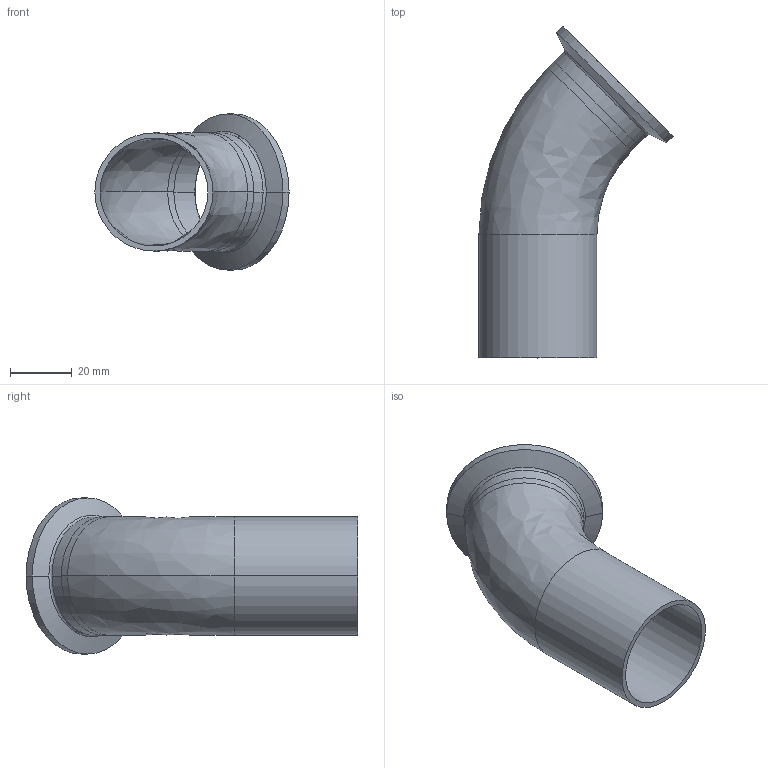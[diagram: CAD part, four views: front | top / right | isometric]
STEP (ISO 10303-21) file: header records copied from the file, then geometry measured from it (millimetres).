
FILE_DESCRIPTION (( 'STEP AP214' ), '1' );
FILE_NAME ('TE2KC6L1.5-...STEP', '2016-05-22T06:29:39', ( 'eran' ), ( '' ), 'SwSTEP 2.0', 'SolidWorks 2016', '' );
FILE_SCHEMA (( 'AUTOMOTIVE_DESIGN' ));
Length unit declared in the file: millimetre
Products named in the file (1): TE2KC6L1.5-..
Bounding box: 62.68 x 107.13 x 50.39 mm (x, y, z)
Volume: 21596.5 mm3; surface area: 24735.3 mm2
Topology: 2 solids, 2 shells, 39 faces, 92 edges, 58 vertices
Faces by surface type: bspline 14, cylinder 14, cone 6, plane 5
Entity records: 1868 total; most frequent: CARTESIAN_POINT 924, DIRECTION 204, ORIENTED_EDGE 184, AXIS2_PLACEMENT_3D 92, EDGE_CURVE 92, CIRCLE 66, VERTEX_POINT 58, EDGE_LOOP 44
